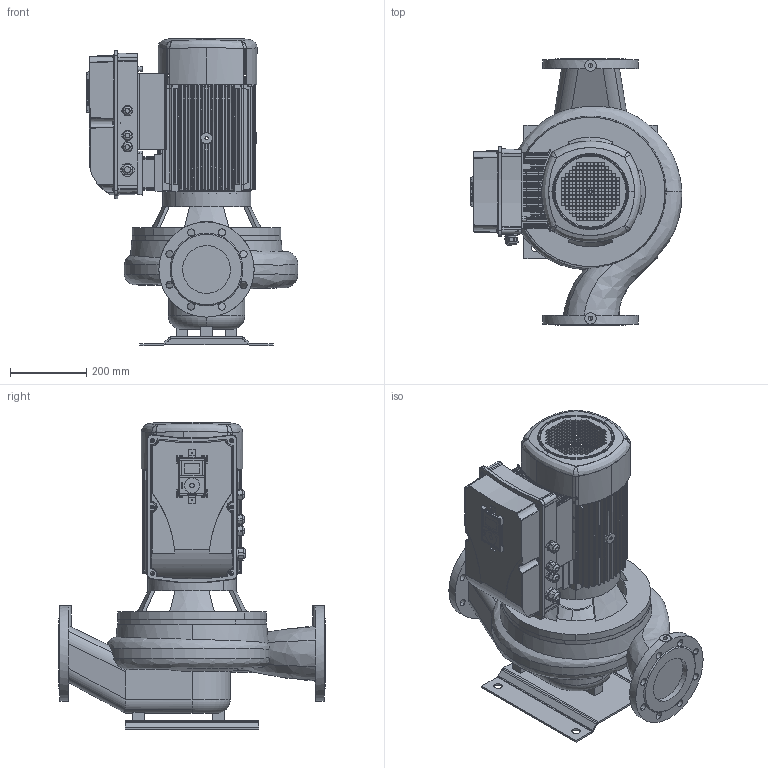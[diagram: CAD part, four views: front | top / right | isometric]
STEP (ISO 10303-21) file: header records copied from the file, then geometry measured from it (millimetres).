
FILE_DESCRIPTION(('STEP AP214'),'1');
FILE_NAME('export.stp','2018-08-09T07:24:45',(' '),(' '),'Spatial InterOp 3D',' ',' ');
FILE_SCHEMA(('AUTOMOTIVE_DESIGN { 1 0 10303 214 1 1 1 1 }'));
Length unit declared in the file: millimetre
Products named in the file (29): W_AL1129475VS; V_EKF31OKN132133; V_TLL100SAL1202; P100496; P100495; P100342; MS3_Vac20CP_KP134; P101415; P101409; R200882; P101462; Piirilevyn_pala; A2004-2-4-LP-N-R; P101414; Vacon_Display; CAD-3D-VACON-M100-Display.sldasm; Vacon_display_pla; Vacon_display_scr; R201240; DIN_7985-M5x10; M20_tiivisteholkk; M25_tiivisteholkk; G43699; P101416; DIN_965-M5x16; DIN_7985-M5x20; DIN_7985-M4x16; DIN_7985-M5x60; V_PPAL1129
Assembly tree (47 placements, depth 4):
  W_AL1129475VS
    V_EKF31OKN132133
    V_TLL100SAL1202
    P100496
      P100495  x2
      P100342
    MS3_Vac20CP_KP134
      P101415
      P101409
      R200882
      P101462
        Piirilevyn_pala
        A2004-2-4-LP-N-R  x2
      P101414
      Vacon_Display
        CAD-3D-VACON-M100-Display.sldasm
        Vacon_display_pla
        Vacon_display_scr
      R201240
      DIN_7985-M5x10  x6
      M20_tiivisteholkk  x3
      M25_tiivisteholkk
      G43699  x3
      P101416
      DIN_965-M5x16  x4
      DIN_7985-M5x20  x2
      DIN_7985-M4x16  x2
      DIN_7985-M5x60  x4
    V_PPAL1129
Bounding box: 556.25 x 700 x 806.99 mm (x, y, z)
Volume: 36240898.4 mm3; surface area: 4582245.5 mm2
Topology: 42 solids, 1515 shells, 5412 faces, 18549 edges, 14707 vertices
Faces by surface type: plane 2137, bspline 1551, cylinder 1189, cone 298, torus 192, sphere 45
Entity records: 243925 total; most frequent: CARTESIAN_POINT 84543, ORIENTED_EDGE 26530, DIRECTION 17854, EDGE_CURVE 17087, VERTEX_POINT 13833, B_SPLINE_CURVE_WITH_KNOTS 7173, AXIS2_PLACEMENT_3D 5970, LINE 5914
